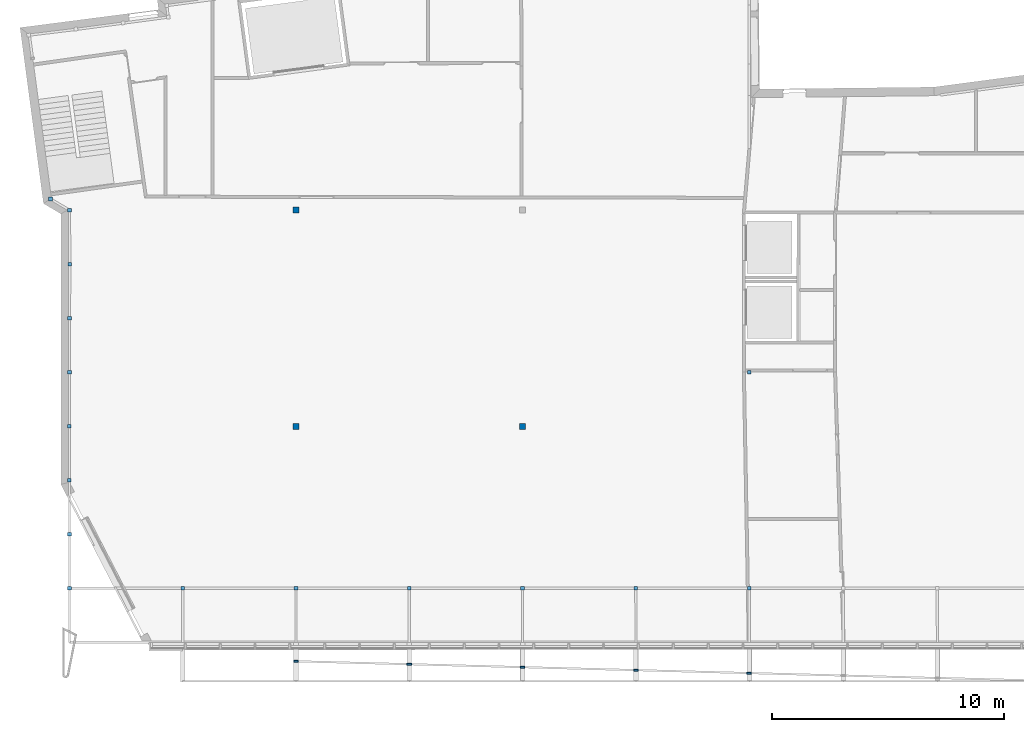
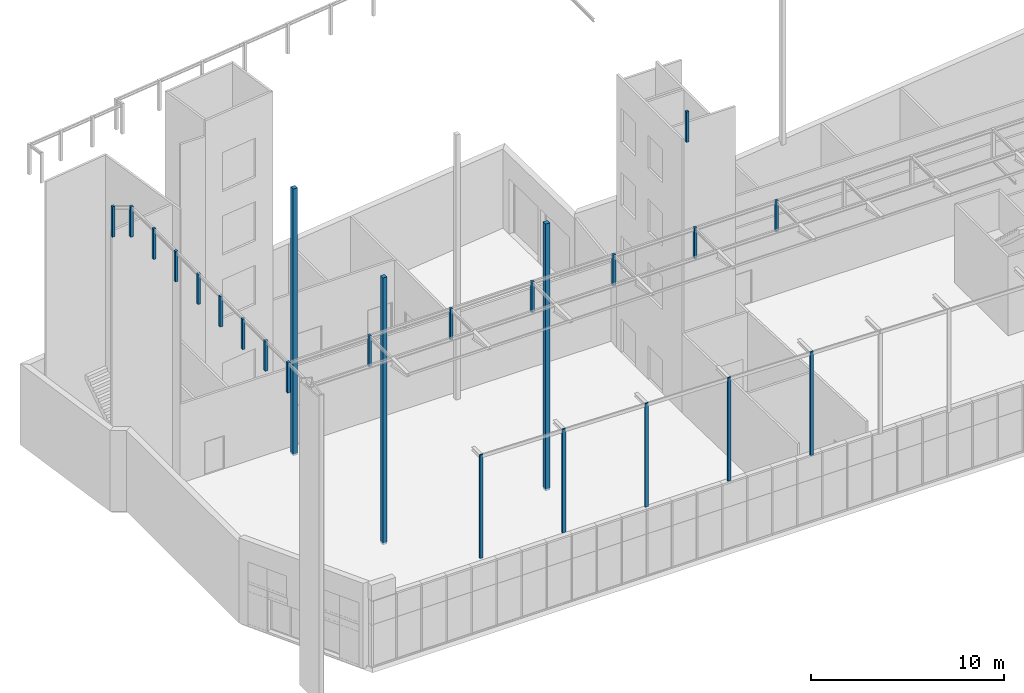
# One storey, part 1 of 40: 24 columns.
"""IFC2X3 building model written with IfcOpenShell, lengths in metres."""

from ifc_helpers import new_model, entity, si_unit, converted_unit, money_unit, direction, frame, origin_with_axes, origin_2d_with_axis, place, context, subcontext, project, spatial, rectangle, extrude, material, type_object, element, save


model = new_model("IFC2X3")

# Units and contexts
model_context = context("Model", 3, precision=1e-05, world=origin_with_axes(), true_north=direction((0.0, 1.0)))
body_context = subcontext(model_context, "Body", "Model", "MODEL_VIEW")
ifc_project = project(units=[si_unit("LENGTHUNIT", "METRE"), si_unit("AREAUNIT", "SQUARE_METRE"), si_unit("VOLUMEUNIT", "CUBIC_METRE"), converted_unit("PLANEANGLEUNIT", "DEGREE", entity("IfcPlaneAngleMeasure", 0.0174532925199), si_unit("PLANEANGLEUNIT", "RADIAN"), dimensions=[0, 0, 0, 0, 0, 0, 0]), si_unit("SOLIDANGLEUNIT", "STERADIAN"), money_unit("EUR"), converted_unit("TIMEUNIT", "Year", entity("IfcTimeMeasure", 31556926.0), si_unit("TIMEUNIT", "SECOND"), dimensions=[0, 0, 0, 0, 0, 0, 0]), si_unit("MASSUNIT", "GRAM"), si_unit("THERMODYNAMICTEMPERATUREUNIT", "DEGREE_CELSIUS"), si_unit("LUMINOUSINTENSITYUNIT", "LUMEN")], contexts=[model_context])

# Site, building, storey
site_placement = place(None, origin_with_axes())
site = spatial("IfcSite", under=ifc_project, at=site_placement, Name="Undefined", CompositionType="ELEMENT")
building_placement = place(site_placement, origin_with_axes())
building = spatial("IfcBuilding", under=site, at=building_placement, Name="Undefined", CompositionType="ELEMENT")
storey_placement = place(building_placement, origin_with_axes())
storey = spatial("IfcBuildingStorey", under=building, at=storey_placement, Name="Rez de chauss\x8ee", CompositionType="ELEMENT", Elevation=0.0)

# Columns
ifc_material_1 = material(Name="STEEL/S235JRG2 3386696625")
column_type_1 = type_object("IfcColumnType", Name="HEB160", PredefinedType="NOTDEFINED")
column_1_placement = place(storey_placement, frame((8.19981143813e-10, 4.64999999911, 17.1706852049), z_axis=(0.0, 0.0, 1.0), x_axis=(0.0, -1.0, 0.0)))
element("IfcColumn", 1, at=column_1_placement, inside=storey, type_object=column_type_1, material=ifc_material_1, Name="Column", ObjectType="COLUMN", context=body_context, shape_type="SweptSolid", body=[
    extrude(rectangle(XDim=0.16, YDim=0.16, at=origin_2d_with_axis()), origin_with_axes(), (0.0, 0.0, 1.0), 1.925),
])
for number, where, z_axis, x_axis, name in (
    (2, (24.3750000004, 2.32499999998, 17.16), (0.0, 0.0, 1.0), (0.0, -1.0, 0.0), "Column"),
    (3, (9.75000000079, 2.32499999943, 17.16), (0.0, 0.0, 1.0), (0.0, -1.0, 0.0), "Column"),
):
    element("IfcColumn", number, at=place(storey_placement, frame(where, z_axis=z_axis, x_axis=x_axis)), inside=storey, type_object=column_type_1, material=ifc_material_1, Name=name, ObjectType="COLUMN", context=body_context, shape_type="SweptSolid", body=[
        extrude(rectangle(XDim=0.16, YDim=0.16, at=origin_2d_with_axis()), origin_with_axes(), (0.0, 0.0, 1.0), 1.96500000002),
    ])
column_2_placement = place(storey_placement, frame((19.5000000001, 2.32499999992, 17.16), z_axis=(0.0, 0.0, 1.0), x_axis=(0.0, -1.0, 0.0)))
element("IfcColumn", 4, at=column_2_placement, inside=storey, type_object=column_type_1, material=ifc_material_1, Name="Column", ObjectType="COLUMN", context=body_context, shape_type="SweptSolid", body=[
    extrude(rectangle(XDim=0.16, YDim=0.16, at=origin_2d_with_axis()), origin_with_axes(), (0.0, 0.0, 1.0), 1.96500000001),
])
for number, where, z_axis, x_axis, name in (
    (5, (29.2499999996, 11.6250000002, 17.2), (0.0, 0.0, 1.0), (0.0, -1.0, 0.0), "Column"),
    (6, (0.0, 13.9499999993, 17.2), (0.0, 0.0, 1.0), (0.0, -1.0, 0.0), "Column"),
    (7, (5.25714466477e-10, 18.599999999, 17.2), (0.0, 0.0, 1.0), (0.0, -1.0, 0.0), "Column"),
    (8, (0.0136786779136, 16.2749999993, 17.2), (0.0, 0.0, 1.0), (0.0, -1.0, 0.0), "Column"),
    (9, (2.79406117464e-10, 2.32499999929, 17.2), (0.0, 0.0, 1.0), (0.0, -1.0, 0.0), "Column"),
    (10, (-0.81630002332, 19.0854601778, 17.1999994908), (0.0, 0.0, 1.0), (0.0, -1.0, 0.0), "Column"),
):
    element("IfcColumn", number, at=place(storey_placement, frame(where, z_axis=z_axis, x_axis=x_axis)), inside=storey, type_object=column_type_1, material=ifc_material_1, Name=name, ObjectType="COLUMN", context=body_context, shape_type="SweptSolid", body=[
        extrude(rectangle(XDim=0.16, YDim=0.16, at=origin_2d_with_axis()), origin_with_axes(), (0.0, 0.0, 1.0), 1.925),
    ])
column_3_placement = place(storey_placement, frame((29.2499999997, 2.32500000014, 17.16), z_axis=(0.0, 0.0, 1.0), x_axis=(0.0, -1.0, 0.0)))
element("IfcColumn", 11, at=column_3_placement, inside=storey, type_object=column_type_1, material=ifc_material_1, Name="Column", ObjectType="COLUMN", context=body_context, shape_type="SweptSolid", body=[
    extrude(rectangle(XDim=0.16, YDim=0.16, at=origin_2d_with_axis()), origin_with_axes(), (0.0, 0.0, 1.0), 1.96500000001),
])
for number, where, z_axis, x_axis, name in (
    (12, (4.87500000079, 2.32499999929, 17.16), (0.0, 0.0, 1.0), (0.0, -1.0, 0.0), "Column"),
    (13, (14.6250000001, 2.32499999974, 17.16), (0.0, 0.0, 1.0), (0.0, -1.0, 0.0), "Column"),
):
    element("IfcColumn", number, at=place(storey_placement, frame(where, z_axis=z_axis, x_axis=x_axis)), inside=storey, type_object=column_type_1, material=ifc_material_1, Name=name, ObjectType="COLUMN", context=body_context, shape_type="SweptSolid", body=[
        extrude(rectangle(XDim=0.16, YDim=0.16, at=origin_2d_with_axis()), origin_with_axes(), (0.0, 0.0, 1.0), 1.96500000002),
    ])
ifc_material_2 = material(Name="M\x8etal - Acier")
column_type_2 = type_object("IfcColumnType", Name="HEB260", PredefinedType="NOTDEFINED")
column_4_placement = place(storey_placement, frame((9.75000000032, 18.5999999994, 0.0), z_axis=(0.0, 0.0, 1.0), x_axis=(-1.0, 0.0, 0.0)))
element("IfcColumn", 14, at=column_4_placement, inside=storey, type_object=column_type_2, material=ifc_material_2, Name="Poteau", ObjectType="COLUMN", context=body_context, shape_type="SweptSolid", body=[
    extrude(rectangle(XDim=0.26, YDim=0.26, at=origin_2d_with_axis()), origin_with_axes(), (0.0, 0.0, 1.0), 16.9),
])
for number, where, z_axis, x_axis, name in (
    (15, (19.5000000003, 9.29999999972, 0.0), (0.0, 0.0, 1.0), (-1.0, 0.0, 0.0), "POTEAU"),
    (16, (9.75000000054, 9.29999999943, 0.0), (0.0, 0.0, 1.0), (-1.0, 0.0, 0.0), "POTEAU"),
):
    element("IfcColumn", number, at=place(storey_placement, frame(where, z_axis=z_axis, x_axis=x_axis)), inside=storey, type_object=column_type_2, material=ifc_material_2, Name=name, ObjectType="260*260", context=body_context, shape_type="SweptSolid", body=[
        extrude(rectangle(XDim=0.26, YDim=0.26, at=origin_2d_with_axis()), origin_with_axes(), (0.0, 0.0, 1.0), 16.9),
    ])
column_type_3 = type_object("IfcColumnType", Name="STEEL/S235JRG2 3386696625 160 x 160", PredefinedType="NOTDEFINED")
for number, where, z_axis, x_axis, name in (
    (17, (0.0, 11.6250001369, 17.1706852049), (0.0, 0.0, 1.0), (0.0, -1.0, 0.0), "Column"),
    (18, (-0.013678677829, 6.97500027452, 17.1413704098), (0.0, 0.0, 1.0), (0.0, -1.0, 0.0), "Column"),
    (19, (-0.0136786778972, 9.30000013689, 17.1706852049), (0.0, 0.0, 1.0), (0.0, -1.0, 0.0), "Column"),
):
    element("IfcColumn", number, at=place(storey_placement, frame(where, z_axis=z_axis, x_axis=x_axis)), inside=storey, type_object=column_type_3, material=ifc_material_1, Name=name, ObjectType="COLUMN", context=body_context, shape_type="SweptSolid", body=[
        extrude(rectangle(XDim=0.16, YDim=0.16, at=origin_2d_with_axis()), origin_with_axes(), (0.0, 0.0, 1.0), 1.925),
    ])
column_type_4 = type_object("IfcColumnType", Name="UPE200", PredefinedType="NOTDEFINED")
for number, where, z_axis, x_axis, name in (
    (20, (29.2499999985, -1.31983228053, 5.2), (0.0, 0.0, 1.0), (0.0, 1.0, 0.0), "Column"),
    (21, (24.3749999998, -1.19359506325, 5.2), (0.0, 0.0, 1.0), (0.0, 1.0, 0.0), "Column"),
    (22, (19.4999999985, -1.06594543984, 5.2), (0.0, 0.0, 1.0), (0.0, 1.0, 0.0), "Column"),
    (23, (14.6249999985, -0.938468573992, 5.2), (0.0, 0.0, 1.0), (0.0, 1.0, 0.0), "Column"),
    (24, (9.74999999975, -0.812231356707, 5.2), (0.0, 0.0, 1.0), (0.0, 1.0, 0.0), "Column"),
):
    element("IfcColumn", number, at=place(storey_placement, frame(where, z_axis=z_axis, x_axis=x_axis)), inside=storey, type_object=column_type_4, material=ifc_material_1, Name=name, ObjectType="COLUMN", context=body_context, shape_type="SweptSolid", body=[
        extrude(rectangle(XDim=0.08, YDim=0.2, at=origin_2d_with_axis()), origin_with_axes(), (0.0, 0.0, 1.0), 6.55),
    ])

save(model, "model.ifc")
